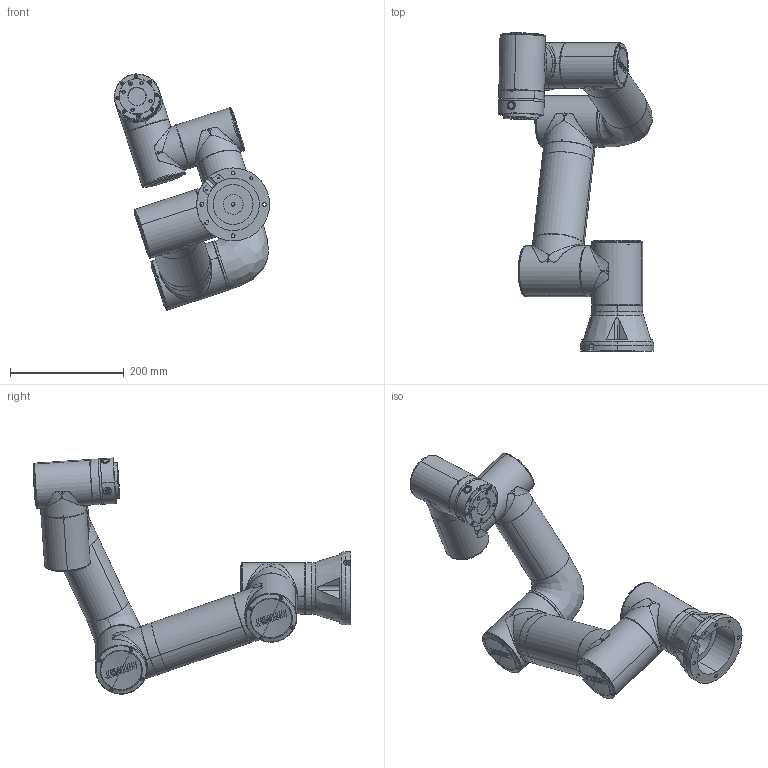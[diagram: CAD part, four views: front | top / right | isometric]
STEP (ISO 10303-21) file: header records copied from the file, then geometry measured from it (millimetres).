
FILE_DESCRIPTION (( 'STEP AP214' ), '1' );
FILE_NAME ('S622Íâ·¢Ä£ÐÍV3.0.STEP', '2024-04-29T06:40:15', ( '' ), ( '' ), 'SwSTEP 2.0', 'SolidWorks 2022', '' );
FILE_SCHEMA (( 'AUTOMOTIVE_DESIGN' ));
Length unit declared in the file: millimetre
Products named in the file (7): S622俋楷耀倰V3.0; S622-2_默认<按加工>; S622-6; S622-1; S622-5_默认<按加工>; S622-4_默认<按加工>; S622-3_默认<按加工>
Assembly tree (7 placements, depth 2):
  S622俋楷耀倰V3.0
    S622-1
    S622-2_默认<按加工>
    S622-3_默认<按加工>
    S622-4_默认<按加工>
    S622-5_默认<按加工>  x2
    S622-6
Bounding box: 272.4 x 557.95 x 414.24 mm (x, y, z)
Volume: 7066443.7 mm3; surface area: 611012.2 mm2
Topology: 37 solids, 73 shells, 4071 faces, 9996 edges, 6226 vertices
Faces by surface type: bspline 1468, plane 1010, cylinder 852, cone 546, sphere 133, torus 62
Entity records: 222469 total; most frequent: CARTESIAN_POINT 131005, ORIENTED_EDGE 17876, DIRECTION 12519, EDGE_CURVE 8938, VERTEX_POINT 5594, AXIS2_PLACEMENT_3D 4964, EDGE_LOOP 3946, ADVANCED_FACE 3674
